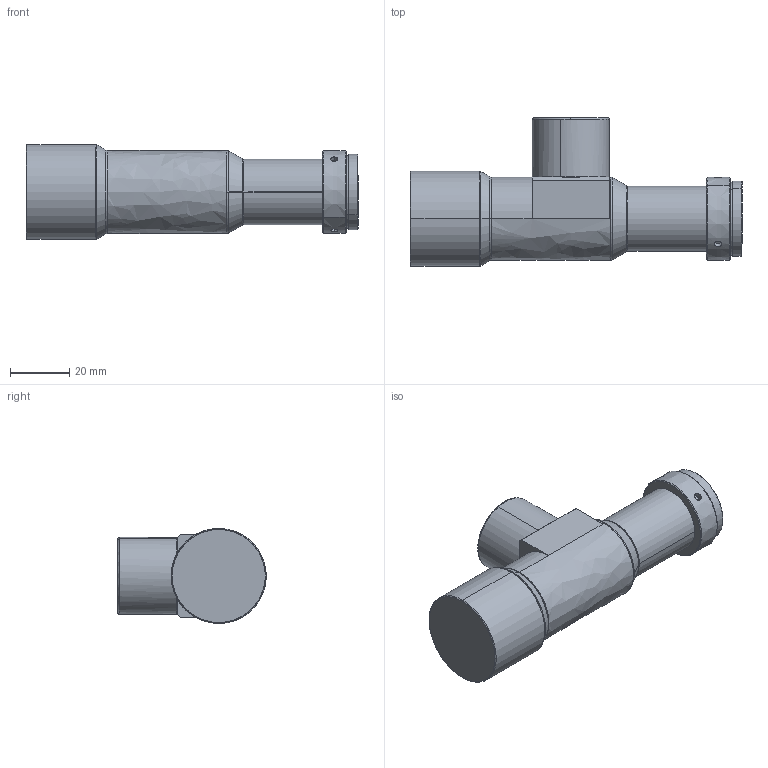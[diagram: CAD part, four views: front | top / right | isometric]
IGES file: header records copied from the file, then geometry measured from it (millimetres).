
Start section: SolidWorks IGES file using analytic representation for surfaces
Global section: file name: C:\Users\dingguolei\Desktop\H\WWH\WWH10-108CTLV3\跤諦誧腔3D芞\WWH10-108CTLV3\WWH10-108CTLV3.IGS; native system: SolidWorks 2017; preprocessor: SolidWorks 2017; author: dingguolei; date: 230815.084545; units: millimetre
Bounding box: 111.9 x 50 x 32 mm (x, y, z)
Surface area: 13645.6 mm2 (no closed solid volume)
Topology: 0 solids, 0 shells, 121 faces, 1520 edges, 1520 vertices
Faces by surface type: revolution 77, bspline 44
